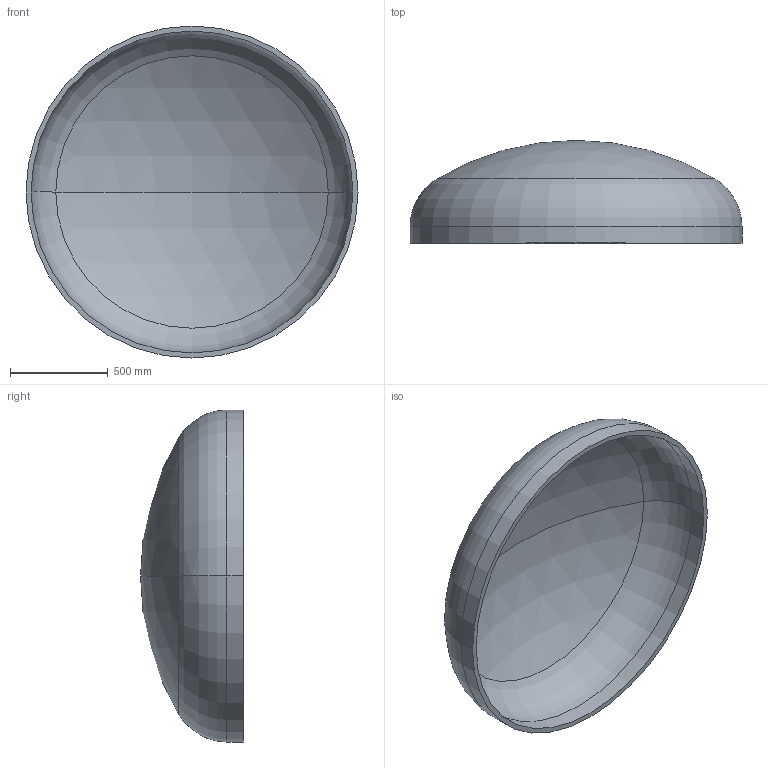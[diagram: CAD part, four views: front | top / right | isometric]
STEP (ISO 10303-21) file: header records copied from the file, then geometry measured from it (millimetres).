
FILE_DESCRIPTION (( 'STEP AP203' ), '1' );
FILE_NAME ('DIN 28013 Korbbogenform_-_Boden DIN 28013 - 1700 x 85 - I - s=26.step', '2016-07-01T11:42:55', ( '' ), ( '' ), 'SwSTEP 2.0', 'SolidWorks 2013', '' );
FILE_SCHEMA (( 'CONFIG_CONTROL_DESIGN' ));
Length unit declared in the file: millimetre
Products named in the file (1): DIN 28013 Korbbogenform_-_Boden DIN 28013 - 1700 x 85 - I - s=26
Bounding box: 1700 x 526.59 x 1700 mm (x, y, z)
Volume: 91614391.7 mm3; surface area: 7185409 mm2
Topology: 1 solids, 1 shells, 13 faces, 24 edges, 14 vertices
Faces by surface type: torus 4, cylinder 4, sphere 4, plane 1
Entity records: 407 total; most frequent: DIRECTION 72, CARTESIAN_POINT 52, ORIENTED_EDGE 48, AXIS2_PLACEMENT_3D 34, EDGE_CURVE 24, CIRCLE 20, EDGE_LOOP 14, VERTEX_POINT 14
